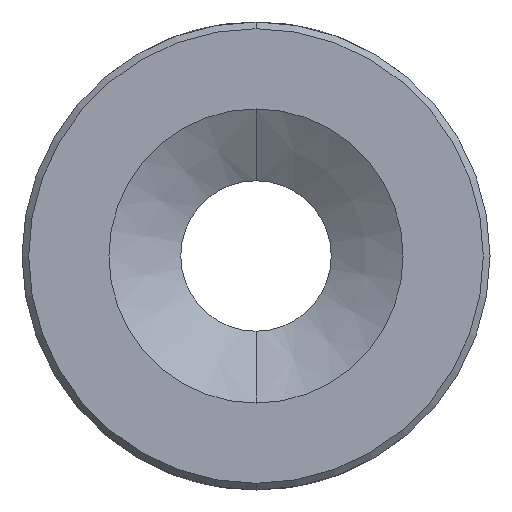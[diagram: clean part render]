
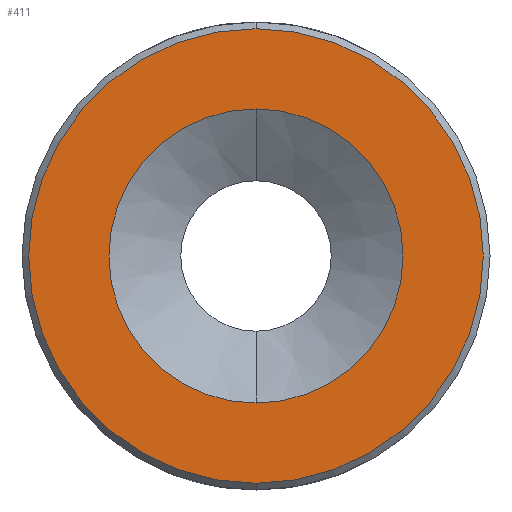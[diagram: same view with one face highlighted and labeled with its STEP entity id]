
A CAD part, front view. The second image highlights one B-rep face of the part: STEP entity #411.
In plain terms, the highlighted planar face has unit normal (0, -1, 0).
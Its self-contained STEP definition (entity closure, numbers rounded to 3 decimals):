
#8 = AXIS2_PLACEMENT_3D ( 'NONE', #290, #1749, #506 ) ;
#126 = AXIS2_PLACEMENT_3D ( 'NONE', #412, #1865, #627 ) ;
#149 = CARTESIAN_POINT ( 'NONE',  ( 0., 0., 0. ) ) ;
#181 = EDGE_CURVE ( 'NONE', #2566, #1289, #2693, .T. ) ;
#199 = PLANE ( 'NONE',  #2159 ) ;
#290 = CARTESIAN_POINT ( 'NONE',  ( 0., 0., 0. ) ) ;
#293 = CARTESIAN_POINT ( 'NONE',  ( 0., 0., 0. ) ) ;
#294 = CARTESIAN_POINT ( 'NONE',  ( 0., 0., 6.8 ) ) ;
#305 = DIRECTION ( 'NONE',  ( 0., -1., 0. ) ) ;
#385 = FACE_OUTER_BOUND ( 'NONE', #573, .T. ) ;
#409 = AXIS2_PLACEMENT_3D ( 'NONE', #149, #1415, #2667 ) ;
#411 = ADVANCED_FACE ( 'NONE', ( #385, #1505 ), #199, .F. ) ;
#412 = CARTESIAN_POINT ( 'NONE',  ( 0., 0., 0. ) ) ;
#424 = EDGE_LOOP ( 'NONE', ( #1957, #2328 ) ) ;
#506 = DIRECTION ( 'NONE',  ( 0., 0., 1. ) ) ;
#573 = EDGE_LOOP ( 'NONE', ( #1064, #1609 ) ) ;
#627 = DIRECTION ( 'NONE',  ( 0., 0., 1. ) ) ;
#1002 = VERTEX_POINT ( 'NONE', #1344 ) ;
#1064 = ORIENTED_EDGE ( 'NONE', *, *, #1861, .T. ) ;
#1212 = EDGE_CURVE ( 'NONE', #1289, #2566, #1241, .T. ) ;
#1241 = CIRCLE ( 'NONE', #409, 4.4 ) ;
#1258 = CARTESIAN_POINT ( 'NONE',  ( 0., 0., 0. ) ) ;
#1289 = VERTEX_POINT ( 'NONE', #1925 ) ;
#1344 = CARTESIAN_POINT ( 'NONE',  ( 0., 0., -6.8 ) ) ;
#1380 = AXIS2_PLACEMENT_3D ( 'NONE', #293, #305, #2611 ) ;
#1415 = DIRECTION ( 'NONE',  ( 0., -1., 0. ) ) ;
#1505 = FACE_BOUND ( 'NONE', #424, .T. ) ;
#1609 = ORIENTED_EDGE ( 'NONE', *, *, #2670, .T. ) ;
#1717 = CARTESIAN_POINT ( 'NONE',  ( 0., 0., -4.4 ) ) ;
#1749 = DIRECTION ( 'NONE',  ( 0., -1., 0. ) ) ;
#1764 = CIRCLE ( 'NONE', #8, 6.8 ) ;
#1861 = EDGE_CURVE ( 'NONE', #2464, #1002, #2389, .T. ) ;
#1865 = DIRECTION ( 'NONE',  ( 0., -1., 0. ) ) ;
#1925 = CARTESIAN_POINT ( 'NONE',  ( 0., 0., 4.4 ) ) ;
#1957 = ORIENTED_EDGE ( 'NONE', *, *, #181, .F. ) ;
#2079 = DIRECTION ( 'NONE',  ( 0., 1., 0. ) ) ;
#2159 = AXIS2_PLACEMENT_3D ( 'NONE', #1258, #2079, #2279 ) ;
#2279 = DIRECTION ( 'NONE',  ( 0., 0., 1. ) ) ;
#2328 = ORIENTED_EDGE ( 'NONE', *, *, #1212, .F. ) ;
#2389 = CIRCLE ( 'NONE', #126, 6.8 ) ;
#2464 = VERTEX_POINT ( 'NONE', #294 ) ;
#2566 = VERTEX_POINT ( 'NONE', #1717 ) ;
#2611 = DIRECTION ( 'NONE',  ( 0., 0., -1. ) ) ;
#2667 = DIRECTION ( 'NONE',  ( 0., 0., -1. ) ) ;
#2670 = EDGE_CURVE ( 'NONE', #1002, #2464, #1764, .T. ) ;
#2693 = CIRCLE ( 'NONE', #1380, 4.4 ) ;
